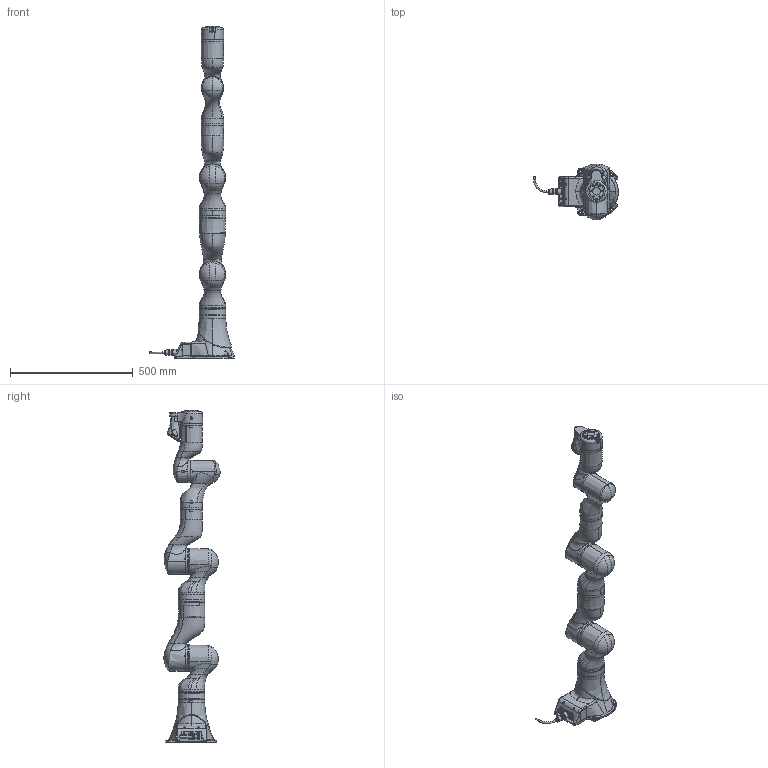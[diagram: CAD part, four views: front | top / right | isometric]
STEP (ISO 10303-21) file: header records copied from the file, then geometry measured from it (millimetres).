
FILE_DESCRIPTION(/* description */ (''),/* implementation_level */ '2;1');
FILE_NAME(/* name */ 'XM3-R760-B0S2 简化模型无Logo(20210225).stp',/* time_stamp */ '2021-02-26T15:34:45+08:00',/* author */ (''),/* organization */ (''),/* preprocessor_version */ 'ST-DEVELOPER v16',/* originating_system */ 'SIEMENS PLM Software NX 10.0',/* authorisation */ '');
FILE_SCHEMA (('CONFIG_CONTROL_DESIGN'));
Products named in the file (8): XM3-R760-B0S2-4; XM3-R760-B0S2-1; XM3-R760-B0S2-6; XM3-R760-B0S2-5; XM3-R760-B0S2-3; XM3-R760-B0S2-base; XM3-R760-B0S2-2; XM3-R760-B0S2 简化模型无Logo(20210225)
Assembly tree (7 placements, depth 2):
  XM3-R760-B0S2 简化模型无Logo(20210225)
    XM3-R760-B0S2-2
    XM3-R760-B0S2-base
    XM3-R760-B0S2-3
    XM3-R760-B0S2-5
    XM3-R760-B0S2-6
    XM3-R760-B0S2-1
    XM3-R760-B0S2-4
Bounding box: 345.04 x 229.07 x 1351.8 mm (x, y, z)
Volume: 13796060.5 mm3; surface area: 749073 mm2
Topology: 8 solids, 19 shells, 1521 faces, 3884 edges, 2492 vertices
Faces by surface type: plane 492, bspline 383, cylinder 304, extrusion 229, cone 93, torus 15, sphere 4, revolution 1
Full cylindrical faces by diameter (mm): 0.5 x16, 4.2 x1, 5 x6, 6 x5, 6.5 x4, 6.6 x2, 8 x2, 8.1 x1, 9 x4, 9.8 x1, 10 x2, 11.5 x1, 14.5 x1, 16 x2, 21.6 x2, 22.5 x2, 23.5 x2, 24 x2, 26 x1, 31.5 x1, 60 x1, 62 x6, 73 x6, 89.5 x3, 89.9 x2, 90 x5, 106.5 x5, 107 x10
Entity records: 1134991 total; most frequent: CARTESIAN_POINT 1102963, ORIENTED_EDGE 7206, DIRECTION 4694, EDGE_CURVE 3603, VERTEX_POINT 2419, EDGE_LOOP 1839, B_SPLINE_CURVE_WITH_KNOTS 1784, AXIS2_PLACEMENT_3D 1653
